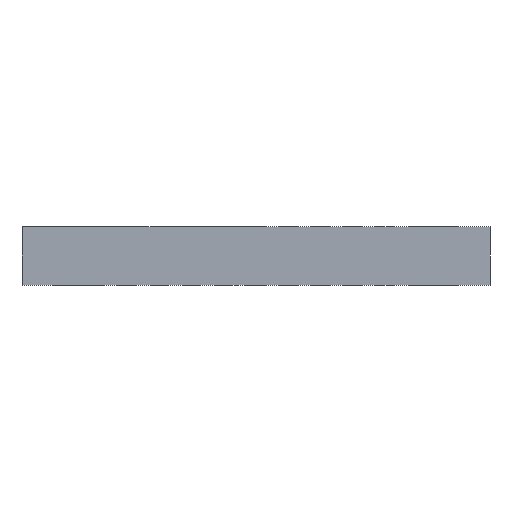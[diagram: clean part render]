
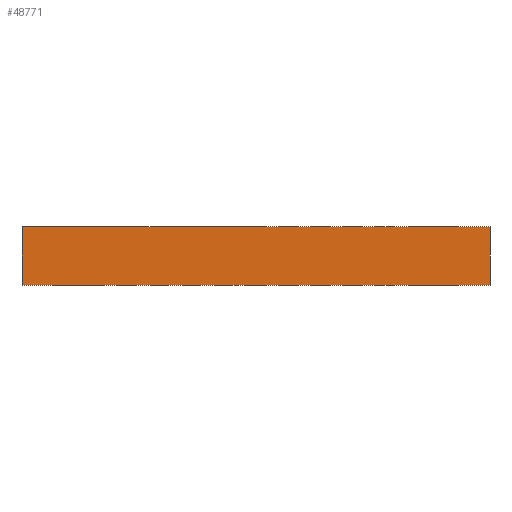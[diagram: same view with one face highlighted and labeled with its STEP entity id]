
A CAD part, left-side view. The second image highlights one B-rep face of the part: STEP entity #48771.
In plain terms, the highlighted planar face has unit normal (-1, 0, 0).
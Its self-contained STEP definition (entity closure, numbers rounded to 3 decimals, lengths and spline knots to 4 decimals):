
#3468=FACE_OUTER_BOUND('',#6576,.T.);
#6576=EDGE_LOOP('',(#43696,#43697,#43698,#43699));
#7536=LINE('',#67416,#13510);
#10523=LINE('',#77374,#16497);
#12552=LINE('',#81615,#18526);
#12553=LINE('',#81616,#18527);
#13510=VECTOR('',#52643,8.);
#16497=VECTOR('',#57940,8.);
#18526=VECTOR('',#61689,1.);
#18527=VECTOR('',#61690,1.);
#20104=VERTEX_POINT('',#67412);
#20106=VERTEX_POINT('',#67415);
#22330=VERTEX_POINT('',#77367);
#22333=VERTEX_POINT('',#77372);
#24992=EDGE_CURVE('',#20106,#20104,#7536,.T.);
#28331=EDGE_CURVE('',#22333,#22330,#10523,.T.);
#30360=EDGE_CURVE('',#20104,#22330,#12552,.T.);
#30361=EDGE_CURVE('',#20106,#22333,#12553,.T.);
#43696=ORIENTED_EDGE('',*,*,#24992,.T.);
#43697=ORIENTED_EDGE('',*,*,#30360,.T.);
#43698=ORIENTED_EDGE('',*,*,#28331,.F.);
#43699=ORIENTED_EDGE('',*,*,#30361,.F.);
#46030=PLANE('',#51089);
#48771=ADVANCED_FACE('',(#3468),#46030,.T.);
#51089=AXIS2_PLACEMENT_3D('',#81614,#61687,#61688);
#52643=DIRECTION('',(0.,-1.,0.));
#57940=DIRECTION('',(0.,-1.,0.));
#61687=DIRECTION('center_axis',(-1.,0.,0.));
#61688=DIRECTION('ref_axis',(0.,-1.,0.));
#61689=DIRECTION('',(0.,0.,1.));
#61690=DIRECTION('',(0.,0.,1.));
#67412=CARTESIAN_POINT('',(-4.,-4.,0.));
#67415=CARTESIAN_POINT('',(-4.,4.,0.));
#67416=CARTESIAN_POINT('',(-4.,4.,0.));
#77367=CARTESIAN_POINT('',(-4.,-4.,1.));
#77372=CARTESIAN_POINT('',(-4.,4.,1.));
#77374=CARTESIAN_POINT('',(-4.,4.,1.));
#81614=CARTESIAN_POINT('Origin',(-4.,4.,0.));
#81615=CARTESIAN_POINT('',(-4.,-4.,0.));
#81616=CARTESIAN_POINT('',(-4.,4.,0.));
